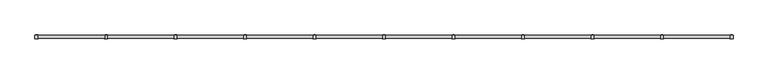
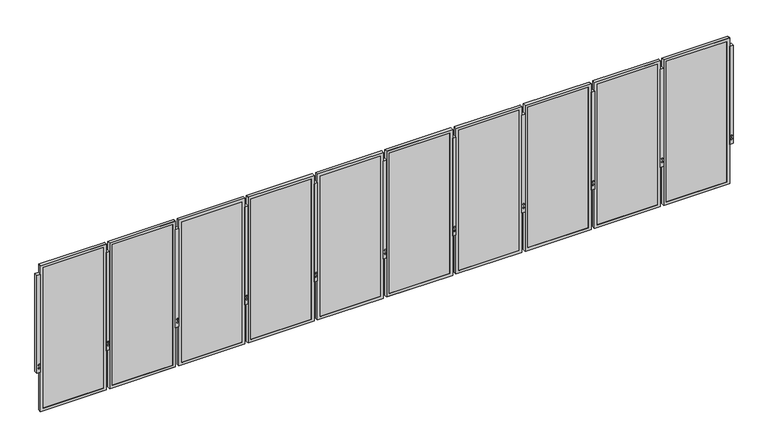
"""IFC4 building model written with IfcOpenShell, lengths in millimetres: railing geometry, Railing - Amico Architectural - Expanded Mesh Railing - Venetian."""

from ifc_helpers import new_model, si_unit, frame, origin, place, context, project, spatial, polyline, outline, extrude, faceted_brep, source, transform, mapped, element, save


def railing_fd5b3ce3(model_context):
    return source(origin(), model_context, "Body", "SolidModel", [
        extrude(outline(polyline([(-18831.9973337, -34280.3025624), (-18781.1973337, -34280.3025624), (-18781.1973337, -34331.1025624), (-18831.9973337, -34331.1025624), (-18831.9973337, -34280.3025624)])), frame((0.0, 0.0, -609.6), z_axis=(0.0, 0.0, 1.0), x_axis=(1.0, 0.0, 0.0)), (0.0, 0.0, 1.0), 1524.0),
        extrude(outline(polyline([(-530.1129981, -18817.0179039), (-542.3802561, -18813.730902), (-545.667258, -18801.463644), (-536.6870019, -18792.4833879), (-524.4197439, -18795.7703898), (-521.132742, -18808.0376478), (-530.1129981, -18817.0179039)])), frame((0.0, -34332.9492502, 0.0), z_axis=(0.0, 1.0, 0.0), x_axis=(0.0, 0.0, 1.0)), (0.0, 0.0, 1.0), 54.4933756),
        extrude(outline(polyline([(-479.3129981, -18817.0179039), (-491.5802561, -18813.730902), (-494.867258, -18801.463644), (-485.8870019, -18792.4833879), (-473.6197439, -18795.7703898), (-470.332742, -18808.0376478), (-479.3129981, -18817.0179039)])), frame((0.0, -34332.9492502, 0.0), z_axis=(0.0, 1.0, 0.0), x_axis=(0.0, 0.0, 1.0)), (0.0, 0.0, 1.0), 54.4933756),
        faceted_brep([(-19798.4017871, -34327.4957624, -1222.375), (-18830.0267871, -34327.4957624, -1222.375), (-18830.0267871, -34327.4957624, 1044.575), (-19798.4017871, -34327.4957624, 1044.575), (-19757.1267871, -34327.4957624, 1003.3), (-18871.3017871, -34327.4957624, 1003.3), (-18871.3017871, -34327.4957624, -1181.1), (-19757.1267871, -34327.4957624, -1181.1), (-19757.1267871, -34324.7525624, 1003.3), (-19757.1267871, -34324.7525624, -1181.1), (-19798.4017871, -34283.6224658, 1044.575), (-19798.4017871, -34283.6224658, -1222.375), (-19795.2267871, -34283.6224658, 1041.4), (-19795.2267871, -34324.7525624, 1041.4), (-19795.2267871, -34324.7525624, -1219.2), (-19795.2267871, -34283.6224658, -1219.2), (-18871.3017871, -34324.7525624, -1181.1), (-18830.0267871, -34283.6224658, -1222.375), (-18833.2017871, -34324.7525624, -1219.2), (-18833.2017871, -34283.6224658, -1219.2), (-18871.3017871, -34324.7525624, 1003.3), (-18830.0267871, -34283.6224658, 1044.575), (-18833.2017871, -34324.7525624, 1041.4), (-18833.2017871, -34283.6224658, 1041.4)], [[[0, 1, 2, 3], [4, 5, 6, 7]], [[8, 4, 7, 9]], [[3, 10, 11, 0]], [[12, 13, 14, 15]], [[9, 7, 6, 16]], [[0, 11, 17, 1]], [[15, 14, 18, 19]], [[16, 6, 5, 20]], [[1, 17, 21, 2]], [[19, 18, 22, 23]], [[20, 5, 4, 8]], [[10, 21, 17, 11], [15, 19, 23, 12]], [[2, 21, 10, 3]], [[13, 22, 18, 14], [9, 16, 20, 8]], [[23, 22, 13, 12]]]),
        extrude(outline(polyline([(-19795.2267871, -34315.2275624), (-18833.2017871, -34315.2275624), (-18833.2017871, -34324.7525624), (-19795.2267871, -34324.7525624), (-19795.2267871, -34315.2275624)])), frame((0.0, 0.0, -1219.2), z_axis=(0.0, 0.0, 1.0), x_axis=(1.0, 0.0, 0.0)), (0.0, 0.0, 1.0), 2260.6),
        extrude(outline(polyline([(-19849.5848337, -34280.3025624), (-19798.7848337, -34280.3025624), (-19798.7848337, -34331.1025624), (-19849.5848337, -34331.1025624), (-19849.5848337, -34280.3025624)])), frame((0.0, 0.0, -609.6), z_axis=(0.0, 0.0, 1.0), x_axis=(1.0, 0.0, 0.0)), (0.0, 0.0, 1.0), 1524.0),
        extrude(outline(polyline([(-530.1129981, -19834.6054039), (-542.3802561, -19831.318402), (-545.667258, -19819.051144), (-536.6870019, -19810.0708879), (-524.4197439, -19813.3578898), (-521.132742, -19825.6251478), (-530.1129981, -19834.6054039)])), frame((0.0, -34332.9492502, 0.0), z_axis=(0.0, 1.0, 0.0), x_axis=(0.0, 0.0, 1.0)), (0.0, 0.0, 1.0), 54.4933756),
        extrude(outline(polyline([(-479.3129981, -19834.6054039), (-491.5802561, -19831.318402), (-494.867258, -19819.051144), (-485.8870019, -19810.0708879), (-473.6197439, -19813.3578898), (-470.332742, -19825.6251478), (-479.3129981, -19834.6054039)])), frame((0.0, -34332.9492502, 0.0), z_axis=(0.0, 1.0, 0.0), x_axis=(0.0, 0.0, 1.0)), (0.0, 0.0, 1.0), 54.4933756),
        faceted_brep([(-20815.9892871, -34327.4957624, -1222.375), (-19847.6142871, -34327.4957624, -1222.375), (-19847.6142871, -34327.4957624, 1044.575), (-20815.9892871, -34327.4957624, 1044.575), (-20774.7142871, -34327.4957624, 1003.3), (-19888.8892871, -34327.4957624, 1003.3), (-19888.8892871, -34327.4957624, -1181.1), (-20774.7142871, -34327.4957624, -1181.1), (-20774.7142871, -34324.7525624, 1003.3), (-20774.7142871, -34324.7525624, -1181.1), (-20815.9892871, -34283.6224658, 1044.575), (-20815.9892871, -34283.6224658, -1222.375), (-20812.8142871, -34283.6224658, 1041.4), (-20812.8142871, -34324.7525624, 1041.4), (-20812.8142871, -34324.7525624, -1219.2), (-20812.8142871, -34283.6224658, -1219.2), (-19888.8892871, -34324.7525624, -1181.1), (-19847.6142871, -34283.6224658, -1222.375), (-19850.7892871, -34324.7525624, -1219.2), (-19850.7892871, -34283.6224658, -1219.2), (-19888.8892871, -34324.7525624, 1003.3), (-19847.6142871, -34283.6224658, 1044.575), (-19850.7892871, -34324.7525624, 1041.4), (-19850.7892871, -34283.6224658, 1041.4)], [[[0, 1, 2, 3], [4, 5, 6, 7]], [[8, 4, 7, 9]], [[3, 10, 11, 0]], [[12, 13, 14, 15]], [[9, 7, 6, 16]], [[0, 11, 17, 1]], [[15, 14, 18, 19]], [[16, 6, 5, 20]], [[1, 17, 21, 2]], [[19, 18, 22, 23]], [[20, 5, 4, 8]], [[10, 21, 17, 11], [15, 19, 23, 12]], [[2, 21, 10, 3]], [[13, 22, 18, 14], [9, 16, 20, 8]], [[23, 22, 13, 12]]]),
        extrude(outline(polyline([(-20812.8142871, -34315.2275624), (-19850.7892871, -34315.2275624), (-19850.7892871, -34324.7525624), (-20812.8142871, -34324.7525624), (-20812.8142871, -34315.2275624)])), frame((0.0, 0.0, -1219.2), z_axis=(0.0, 0.0, 1.0), x_axis=(1.0, 0.0, 0.0)), (0.0, 0.0, 1.0), 2260.6),
        extrude(outline(polyline([(-20867.1723337, -34280.3025624), (-20816.3723337, -34280.3025624), (-20816.3723337, -34331.1025624), (-20867.1723337, -34331.1025624), (-20867.1723337, -34280.3025624)])), frame((0.0, 0.0, -609.6), z_axis=(0.0, 0.0, 1.0), x_axis=(1.0, 0.0, 0.0)), (0.0, 0.0, 1.0), 1524.0),
        extrude(outline(polyline([(-530.1129981, -20852.1929039), (-542.3802561, -20848.905902), (-545.667258, -20836.638644), (-536.6870019, -20827.6583879), (-524.4197439, -20830.9453898), (-521.132742, -20843.2126478), (-530.1129981, -20852.1929039)])), frame((0.0, -34332.9492502, 0.0), z_axis=(0.0, 1.0, 0.0), x_axis=(0.0, 0.0, 1.0)), (0.0, 0.0, 1.0), 54.4933756),
        extrude(outline(polyline([(-479.3129981, -20852.1929039), (-491.5802561, -20848.905902), (-494.867258, -20836.638644), (-485.8870019, -20827.6583879), (-473.6197439, -20830.9453898), (-470.332742, -20843.2126478), (-479.3129981, -20852.1929039)])), frame((0.0, -34332.9492502, 0.0), z_axis=(0.0, 1.0, 0.0), x_axis=(0.0, 0.0, 1.0)), (0.0, 0.0, 1.0), 54.4933756),
        faceted_brep([(-21833.5767871, -34327.4957624, -1222.375), (-20865.2017871, -34327.4957624, -1222.375), (-20865.2017871, -34327.4957624, 1044.575), (-21833.5767871, -34327.4957624, 1044.575), (-21792.3017871, -34327.4957624, 1003.3), (-20906.4767871, -34327.4957624, 1003.3), (-20906.4767871, -34327.4957624, -1181.1), (-21792.3017871, -34327.4957624, -1181.1), (-21792.3017871, -34324.7525624, 1003.3), (-21792.3017871, -34324.7525624, -1181.1), (-21833.5767871, -34283.6224658, 1044.575), (-21833.5767871, -34283.6224658, -1222.375), (-21830.4017871, -34283.6224658, 1041.4), (-21830.4017871, -34324.7525624, 1041.4), (-21830.4017871, -34324.7525624, -1219.2), (-21830.4017871, -34283.6224658, -1219.2), (-20906.4767871, -34324.7525624, -1181.1), (-20865.2017871, -34283.6224658, -1222.375), (-20868.3767871, -34324.7525624, -1219.2), (-20868.3767871, -34283.6224658, -1219.2), (-20906.4767871, -34324.7525624, 1003.3), (-20865.2017871, -34283.6224658, 1044.575), (-20868.3767871, -34324.7525624, 1041.4), (-20868.3767871, -34283.6224658, 1041.4)], [[[0, 1, 2, 3], [4, 5, 6, 7]], [[8, 4, 7, 9]], [[3, 10, 11, 0]], [[12, 13, 14, 15]], [[9, 7, 6, 16]], [[0, 11, 17, 1]], [[15, 14, 18, 19]], [[16, 6, 5, 20]], [[1, 17, 21, 2]], [[19, 18, 22, 23]], [[20, 5, 4, 8]], [[10, 21, 17, 11], [15, 19, 23, 12]], [[2, 21, 10, 3]], [[13, 22, 18, 14], [9, 16, 20, 8]], [[23, 22, 13, 12]]]),
        extrude(outline(polyline([(-21830.4017871, -34315.2275624), (-20868.3767871, -34315.2275624), (-20868.3767871, -34324.7525624), (-21830.4017871, -34324.7525624), (-21830.4017871, -34315.2275624)])), frame((0.0, 0.0, -1219.2), z_axis=(0.0, 0.0, 1.0), x_axis=(1.0, 0.0, 0.0)), (0.0, 0.0, 1.0), 2260.6),
        extrude(outline(polyline([(-21884.7598337, -34280.3025624), (-21833.9598337, -34280.3025624), (-21833.9598337, -34331.1025624), (-21884.7598337, -34331.1025624), (-21884.7598337, -34280.3025624)])), frame((0.0, 0.0, -609.6), z_axis=(0.0, 0.0, 1.0), x_axis=(1.0, 0.0, 0.0)), (0.0, 0.0, 1.0), 1524.0),
        extrude(outline(polyline([(-530.1129981, -21869.7804039), (-542.3802561, -21866.493402), (-545.667258, -21854.226144), (-536.6870019, -21845.2458879), (-524.4197439, -21848.5328898), (-521.132742, -21860.8001478), (-530.1129981, -21869.7804039)])), frame((0.0, -34332.9492502, 0.0), z_axis=(0.0, 1.0, 0.0), x_axis=(0.0, 0.0, 1.0)), (0.0, 0.0, 1.0), 54.4933756),
        extrude(outline(polyline([(-479.3129981, -21869.7804039), (-491.5802561, -21866.493402), (-494.867258, -21854.226144), (-485.8870019, -21845.2458879), (-473.6197439, -21848.5328898), (-470.332742, -21860.8001478), (-479.3129981, -21869.7804039)])), frame((0.0, -34332.9492502, 0.0), z_axis=(0.0, 1.0, 0.0), x_axis=(0.0, 0.0, 1.0)), (0.0, 0.0, 1.0), 54.4933756),
        faceted_brep([(-22851.1642871, -34327.4957624, -1222.375), (-21882.7892871, -34327.4957624, -1222.375), (-21882.7892871, -34327.4957624, 1044.575), (-22851.1642871, -34327.4957624, 1044.575), (-22809.8892871, -34327.4957624, 1003.3), (-21924.0642871, -34327.4957624, 1003.3), (-21924.0642871, -34327.4957624, -1181.1), (-22809.8892871, -34327.4957624, -1181.1), (-22809.8892871, -34324.7525624, 1003.3), (-22809.8892871, -34324.7525624, -1181.1), (-22851.1642871, -34283.6224658, 1044.575), (-22851.1642871, -34283.6224658, -1222.375), (-22847.9892871, -34283.6224658, 1041.4), (-22847.9892871, -34324.7525624, 1041.4), (-22847.9892871, -34324.7525624, -1219.2), (-22847.9892871, -34283.6224658, -1219.2), (-21924.0642871, -34324.7525624, -1181.1), (-21882.7892871, -34283.6224658, -1222.375), (-21885.9642871, -34324.7525624, -1219.2), (-21885.9642871, -34283.6224658, -1219.2), (-21924.0642871, -34324.7525624, 1003.3), (-21882.7892871, -34283.6224658, 1044.575), (-21885.9642871, -34324.7525624, 1041.4), (-21885.9642871, -34283.6224658, 1041.4)], [[[0, 1, 2, 3], [4, 5, 6, 7]], [[8, 4, 7, 9]], [[3, 10, 11, 0]], [[12, 13, 14, 15]], [[9, 7, 6, 16]], [[0, 11, 17, 1]], [[15, 14, 18, 19]], [[16, 6, 5, 20]], [[1, 17, 21, 2]], [[19, 18, 22, 23]], [[20, 5, 4, 8]], [[10, 21, 17, 11], [15, 19, 23, 12]], [[2, 21, 10, 3]], [[13, 22, 18, 14], [9, 16, 20, 8]], [[23, 22, 13, 12]]]),
        extrude(outline(polyline([(-22847.9892871, -34315.2275624), (-21885.9642871, -34315.2275624), (-21885.9642871, -34324.7525624), (-22847.9892871, -34324.7525624), (-22847.9892871, -34315.2275624)])), frame((0.0, 0.0, -1219.2), z_axis=(0.0, 0.0, 1.0), x_axis=(1.0, 0.0, 0.0)), (0.0, 0.0, 1.0), 2260.6),
        extrude(outline(polyline([(-22902.3473337, -34280.3025624), (-22851.5473337, -34280.3025624), (-22851.5473337, -34331.1025624), (-22902.3473337, -34331.1025624), (-22902.3473337, -34280.3025624)])), frame((0.0, 0.0, -609.6), z_axis=(0.0, 0.0, 1.0), x_axis=(1.0, 0.0, 0.0)), (0.0, 0.0, 1.0), 1524.0),
        extrude(outline(polyline([(-530.1129981, -22887.3679039), (-542.3802561, -22884.080902), (-545.667258, -22871.813644), (-536.6870019, -22862.8333879), (-524.4197439, -22866.1203898), (-521.132742, -22878.3876478), (-530.1129981, -22887.3679039)])), frame((0.0, -34332.9492502, 0.0), z_axis=(0.0, 1.0, 0.0), x_axis=(0.0, 0.0, 1.0)), (0.0, 0.0, 1.0), 54.4933756),
        extrude(outline(polyline([(-479.3129981, -22887.3679039), (-491.5802561, -22884.080902), (-494.867258, -22871.813644), (-485.8870019, -22862.8333879), (-473.6197439, -22866.1203898), (-470.332742, -22878.3876478), (-479.3129981, -22887.3679039)])), frame((0.0, -34332.9492502, 0.0), z_axis=(0.0, 1.0, 0.0), x_axis=(0.0, 0.0, 1.0)), (0.0, 0.0, 1.0), 54.4933756),
        faceted_brep([(-23868.7517871, -34327.4957624, -1222.375), (-22900.3767871, -34327.4957624, -1222.375), (-22900.3767871, -34327.4957624, 1044.575), (-23868.7517871, -34327.4957624, 1044.575), (-23827.4767871, -34327.4957624, 1003.3), (-22941.6517871, -34327.4957624, 1003.3), (-22941.6517871, -34327.4957624, -1181.1), (-23827.4767871, -34327.4957624, -1181.1), (-23827.4767871, -34324.7525624, 1003.3), (-23827.4767871, -34324.7525624, -1181.1), (-23868.7517871, -34283.6224658, 1044.575), (-23868.7517871, -34283.6224658, -1222.375), (-23865.5767871, -34283.6224658, 1041.4), (-23865.5767871, -34324.7525624, 1041.4), (-23865.5767871, -34324.7525624, -1219.2), (-23865.5767871, -34283.6224658, -1219.2), (-22941.6517871, -34324.7525624, -1181.1), (-22900.3767871, -34283.6224658, -1222.375), (-22903.5517871, -34324.7525624, -1219.2), (-22903.5517871, -34283.6224658, -1219.2), (-22941.6517871, -34324.7525624, 1003.3), (-22900.3767871, -34283.6224658, 1044.575), (-22903.5517871, -34324.7525624, 1041.4), (-22903.5517871, -34283.6224658, 1041.4)], [[[0, 1, 2, 3], [4, 5, 6, 7]], [[8, 4, 7, 9]], [[3, 10, 11, 0]], [[12, 13, 14, 15]], [[9, 7, 6, 16]], [[0, 11, 17, 1]], [[15, 14, 18, 19]], [[16, 6, 5, 20]], [[1, 17, 21, 2]], [[19, 18, 22, 23]], [[20, 5, 4, 8]], [[10, 21, 17, 11], [15, 19, 23, 12]], [[2, 21, 10, 3]], [[13, 22, 18, 14], [9, 16, 20, 8]], [[23, 22, 13, 12]]]),
        extrude(outline(polyline([(-23865.5767871, -34315.2275624), (-22903.5517871, -34315.2275624), (-22903.5517871, -34324.7525624), (-23865.5767871, -34324.7525624), (-23865.5767871, -34315.2275624)])), frame((0.0, 0.0, -1219.2), z_axis=(0.0, 0.0, 1.0), x_axis=(1.0, 0.0, 0.0)), (0.0, 0.0, 1.0), 2260.6),
        extrude(outline(polyline([(-23919.9348337, -34280.3025624), (-23869.1348337, -34280.3025624), (-23869.1348337, -34331.1025624), (-23919.9348337, -34331.1025624), (-23919.9348337, -34280.3025624)])), frame((0.0, 0.0, -609.6), z_axis=(0.0, 0.0, 1.0), x_axis=(1.0, 0.0, 0.0)), (0.0, 0.0, 1.0), 1524.0),
        extrude(outline(polyline([(-530.1129981, -23904.9554039), (-542.3802561, -23901.668402), (-545.667258, -23889.401144), (-536.6870019, -23880.4208879), (-524.4197439, -23883.7078898), (-521.132742, -23895.9751478), (-530.1129981, -23904.9554039)])), frame((0.0, -34332.9492502, 0.0), z_axis=(0.0, 1.0, 0.0), x_axis=(0.0, 0.0, 1.0)), (0.0, 0.0, 1.0), 54.4933756),
        extrude(outline(polyline([(-479.3129981, -23904.9554039), (-491.5802561, -23901.668402), (-494.867258, -23889.401144), (-485.8870019, -23880.4208879), (-473.6197439, -23883.7078898), (-470.332742, -23895.9751478), (-479.3129981, -23904.9554039)])), frame((0.0, -34332.9492502, 0.0), z_axis=(0.0, 1.0, 0.0), x_axis=(0.0, 0.0, 1.0)), (0.0, 0.0, 1.0), 54.4933756),
        faceted_brep([(-24886.3392871, -34327.4957624, -1222.375), (-23917.9642871, -34327.4957624, -1222.375), (-23917.9642871, -34327.4957624, 1044.575), (-24886.3392871, -34327.4957624, 1044.575), (-24845.0642871, -34327.4957624, 1003.3), (-23959.2392871, -34327.4957624, 1003.3), (-23959.2392871, -34327.4957624, -1181.1), (-24845.0642871, -34327.4957624, -1181.1), (-24845.0642871, -34324.7525624, 1003.3), (-24845.0642871, -34324.7525624, -1181.1), (-24886.3392871, -34283.6224658, 1044.575), (-24886.3392871, -34283.6224658, -1222.375), (-24883.1642871, -34283.6224658, 1041.4), (-24883.1642871, -34324.7525624, 1041.4), (-24883.1642871, -34324.7525624, -1219.2), (-24883.1642871, -34283.6224658, -1219.2), (-23959.2392871, -34324.7525624, -1181.1), (-23917.9642871, -34283.6224658, -1222.375), (-23921.1392871, -34324.7525624, -1219.2), (-23921.1392871, -34283.6224658, -1219.2), (-23959.2392871, -34324.7525624, 1003.3), (-23917.9642871, -34283.6224658, 1044.575), (-23921.1392871, -34324.7525624, 1041.4), (-23921.1392871, -34283.6224658, 1041.4)], [[[0, 1, 2, 3], [4, 5, 6, 7]], [[8, 4, 7, 9]], [[3, 10, 11, 0]], [[12, 13, 14, 15]], [[9, 7, 6, 16]], [[0, 11, 17, 1]], [[15, 14, 18, 19]], [[16, 6, 5, 20]], [[1, 17, 21, 2]], [[19, 18, 22, 23]], [[20, 5, 4, 8]], [[10, 21, 17, 11], [15, 19, 23, 12]], [[2, 21, 10, 3]], [[13, 22, 18, 14], [9, 16, 20, 8]], [[23, 22, 13, 12]]]),
        extrude(outline(polyline([(-24883.1642871, -34315.2275624), (-23921.1392871, -34315.2275624), (-23921.1392871, -34324.7525624), (-24883.1642871, -34324.7525624), (-24883.1642871, -34315.2275624)])), frame((0.0, 0.0, -1219.2), z_axis=(0.0, 0.0, 1.0), x_axis=(1.0, 0.0, 0.0)), (0.0, 0.0, 1.0), 2260.6),
        extrude(outline(polyline([(-24937.5223337, -34280.3025624), (-24886.7223337, -34280.3025624), (-24886.7223337, -34331.1025624), (-24937.5223337, -34331.1025624), (-24937.5223337, -34280.3025624)])), frame((0.0, 0.0, -609.6), z_axis=(0.0, 0.0, 1.0), x_axis=(1.0, 0.0, 0.0)), (0.0, 0.0, 1.0), 1524.0),
        extrude(outline(polyline([(-530.1129981, -24922.5429039), (-542.3802561, -24919.255902), (-545.667258, -24906.988644), (-536.6870019, -24898.0083879), (-524.4197439, -24901.2953898), (-521.132742, -24913.5626478), (-530.1129981, -24922.5429039)])), frame((0.0, -34332.9492502, 0.0), z_axis=(0.0, 1.0, 0.0), x_axis=(0.0, 0.0, 1.0)), (0.0, 0.0, 1.0), 54.4933756),
        extrude(outline(polyline([(-479.3129981, -24922.5429039), (-491.5802561, -24919.255902), (-494.867258, -24906.988644), (-485.8870019, -24898.0083879), (-473.6197439, -24901.2953898), (-470.332742, -24913.5626478), (-479.3129981, -24922.5429039)])), frame((0.0, -34332.9492502, 0.0), z_axis=(0.0, 1.0, 0.0), x_axis=(0.0, 0.0, 1.0)), (0.0, 0.0, 1.0), 54.4933756),
        faceted_brep([(-25903.9267871, -34327.4957624, -1222.375), (-24935.5517871, -34327.4957624, -1222.375), (-24935.5517871, -34327.4957624, 1044.575), (-25903.9267871, -34327.4957624, 1044.575), (-25862.6517871, -34327.4957624, 1003.3), (-24976.8267871, -34327.4957624, 1003.3), (-24976.8267871, -34327.4957624, -1181.1), (-25862.6517871, -34327.4957624, -1181.1), (-25862.6517871, -34324.7525624, 1003.3), (-25862.6517871, -34324.7525624, -1181.1), (-25903.9267871, -34283.6224658, 1044.575), (-25903.9267871, -34283.6224658, -1222.375), (-25900.7517871, -34283.6224658, 1041.4), (-25900.7517871, -34324.7525624, 1041.4), (-25900.7517871, -34324.7525624, -1219.2), (-25900.7517871, -34283.6224658, -1219.2), (-24976.8267871, -34324.7525624, -1181.1), (-24935.5517871, -34283.6224658, -1222.375), (-24938.7267871, -34324.7525624, -1219.2), (-24938.7267871, -34283.6224658, -1219.2), (-24976.8267871, -34324.7525624, 1003.3), (-24935.5517871, -34283.6224658, 1044.575), (-24938.7267871, -34324.7525624, 1041.4), (-24938.7267871, -34283.6224658, 1041.4)], [[[0, 1, 2, 3], [4, 5, 6, 7]], [[8, 4, 7, 9]], [[3, 10, 11, 0]], [[12, 13, 14, 15]], [[9, 7, 6, 16]], [[0, 11, 17, 1]], [[15, 14, 18, 19]], [[16, 6, 5, 20]], [[1, 17, 21, 2]], [[19, 18, 22, 23]], [[20, 5, 4, 8]], [[10, 21, 17, 11], [15, 19, 23, 12]], [[2, 21, 10, 3]], [[13, 22, 18, 14], [9, 16, 20, 8]], [[23, 22, 13, 12]]]),
        extrude(outline(polyline([(-25900.7517871, -34315.2275624), (-24938.7267871, -34315.2275624), (-24938.7267871, -34324.7525624), (-25900.7517871, -34324.7525624), (-25900.7517871, -34315.2275624)])), frame((0.0, 0.0, -1219.2), z_axis=(0.0, 0.0, 1.0), x_axis=(1.0, 0.0, 0.0)), (0.0, 0.0, 1.0), 2260.6),
        extrude(outline(polyline([(-25955.1098337, -34280.3025624), (-25904.3098337, -34280.3025624), (-25904.3098337, -34331.1025624), (-25955.1098337, -34331.1025624), (-25955.1098337, -34280.3025624)])), frame((0.0, 0.0, -609.6), z_axis=(0.0, 0.0, 1.0), x_axis=(1.0, 0.0, 0.0)), (0.0, 0.0, 1.0), 1524.0),
        extrude(outline(polyline([(-530.1129981, -25940.1304039), (-542.3802561, -25936.843402), (-545.667258, -25924.576144), (-536.6870019, -25915.5958879), (-524.4197439, -25918.8828898), (-521.132742, -25931.1501478), (-530.1129981, -25940.1304039)])), frame((0.0, -34332.9492502, 0.0), z_axis=(0.0, 1.0, 0.0), x_axis=(0.0, 0.0, 1.0)), (0.0, 0.0, 1.0), 54.4933756),
        extrude(outline(polyline([(-479.3129981, -25940.1304039), (-491.5802561, -25936.843402), (-494.867258, -25924.576144), (-485.8870019, -25915.5958879), (-473.6197439, -25918.8828898), (-470.332742, -25931.1501478), (-479.3129981, -25940.1304039)])), frame((0.0, -34332.9492502, 0.0), z_axis=(0.0, 1.0, 0.0), x_axis=(0.0, 0.0, 1.0)), (0.0, 0.0, 1.0), 54.4933756),
        faceted_brep([(-26921.5142871, -34327.4957624, -1222.375), (-25953.1392871, -34327.4957624, -1222.375), (-25953.1392871, -34327.4957624, 1044.575), (-26921.5142871, -34327.4957624, 1044.575), (-26880.2392871, -34327.4957624, 1003.3), (-25994.4142871, -34327.4957624, 1003.3), (-25994.4142871, -34327.4957624, -1181.1), (-26880.2392871, -34327.4957624, -1181.1), (-26880.2392871, -34324.7525624, 1003.3), (-26880.2392871, -34324.7525624, -1181.1), (-26921.5142871, -34283.6224658, 1044.575), (-26921.5142871, -34283.6224658, -1222.375), (-26918.3392871, -34283.6224658, 1041.4), (-26918.3392871, -34324.7525624, 1041.4), (-26918.3392871, -34324.7525624, -1219.2), (-26918.3392871, -34283.6224658, -1219.2), (-25994.4142871, -34324.7525624, -1181.1), (-25953.1392871, -34283.6224658, -1222.375), (-25956.3142871, -34324.7525624, -1219.2), (-25956.3142871, -34283.6224658, -1219.2), (-25994.4142871, -34324.7525624, 1003.3), (-25953.1392871, -34283.6224658, 1044.575), (-25956.3142871, -34324.7525624, 1041.4), (-25956.3142871, -34283.6224658, 1041.4)], [[[0, 1, 2, 3], [4, 5, 6, 7]], [[8, 4, 7, 9]], [[3, 10, 11, 0]], [[12, 13, 14, 15]], [[9, 7, 6, 16]], [[0, 11, 17, 1]], [[15, 14, 18, 19]], [[16, 6, 5, 20]], [[1, 17, 21, 2]], [[19, 18, 22, 23]], [[20, 5, 4, 8]], [[10, 21, 17, 11], [15, 19, 23, 12]], [[2, 21, 10, 3]], [[13, 22, 18, 14], [9, 16, 20, 8]], [[23, 22, 13, 12]]]),
        extrude(outline(polyline([(-26918.3392871, -34315.2275624), (-25956.3142871, -34315.2275624), (-25956.3142871, -34324.7525624), (-26918.3392871, -34324.7525624), (-26918.3392871, -34315.2275624)])), frame((0.0, 0.0, -1219.2), z_axis=(0.0, 0.0, 1.0), x_axis=(1.0, 0.0, 0.0)), (0.0, 0.0, 1.0), 2260.6),
        extrude(outline(polyline([(-26972.6973337, -34280.3025624), (-26921.8973337, -34280.3025624), (-26921.8973337, -34331.1025624), (-26972.6973337, -34331.1025624), (-26972.6973337, -34280.3025624)])), frame((0.0, 0.0, -609.6), z_axis=(0.0, 0.0, 1.0), x_axis=(1.0, 0.0, 0.0)), (0.0, 0.0, 1.0), 1524.0),
        extrude(outline(polyline([(-530.1129981, -26957.7179039), (-542.3802561, -26954.430902), (-545.667258, -26942.163644), (-536.6870019, -26933.1833879), (-524.4197439, -26936.4703898), (-521.132742, -26948.7376478), (-530.1129981, -26957.7179039)])), frame((0.0, -34332.9492502, 0.0), z_axis=(0.0, 1.0, 0.0), x_axis=(0.0, 0.0, 1.0)), (0.0, 0.0, 1.0), 54.4933756),
        extrude(outline(polyline([(-479.3129981, -26957.7179039), (-491.5802561, -26954.430902), (-494.867258, -26942.163644), (-485.8870019, -26933.1833879), (-473.6197439, -26936.4703898), (-470.332742, -26948.7376478), (-479.3129981, -26957.7179039)])), frame((0.0, -34332.9492502, 0.0), z_axis=(0.0, 1.0, 0.0), x_axis=(0.0, 0.0, 1.0)), (0.0, 0.0, 1.0), 54.4933756),
        faceted_brep([(-27939.1017871, -34327.4957624, -1222.375), (-26970.7267871, -34327.4957624, -1222.375), (-26970.7267871, -34327.4957624, 1044.575), (-27939.1017871, -34327.4957624, 1044.575), (-27897.8267871, -34327.4957624, 1003.3), (-27012.0017871, -34327.4957624, 1003.3), (-27012.0017871, -34327.4957624, -1181.1), (-27897.8267871, -34327.4957624, -1181.1), (-27897.8267871, -34324.7525624, 1003.3), (-27897.8267871, -34324.7525624, -1181.1), (-27939.1017871, -34283.6224658, 1044.575), (-27939.1017871, -34283.6224658, -1222.375), (-27935.9267871, -34283.6224658, 1041.4), (-27935.9267871, -34324.7525624, 1041.4), (-27935.9267871, -34324.7525624, -1219.2), (-27935.9267871, -34283.6224658, -1219.2), (-27012.0017871, -34324.7525624, -1181.1), (-26970.7267871, -34283.6224658, -1222.375), (-26973.9017871, -34324.7525624, -1219.2), (-26973.9017871, -34283.6224658, -1219.2), (-27012.0017871, -34324.7525624, 1003.3), (-26970.7267871, -34283.6224658, 1044.575), (-26973.9017871, -34324.7525624, 1041.4), (-26973.9017871, -34283.6224658, 1041.4)], [[[0, 1, 2, 3], [4, 5, 6, 7]], [[8, 4, 7, 9]], [[3, 10, 11, 0]], [[12, 13, 14, 15]], [[9, 7, 6, 16]], [[0, 11, 17, 1]], [[15, 14, 18, 19]], [[16, 6, 5, 20]], [[1, 17, 21, 2]], [[19, 18, 22, 23]], [[20, 5, 4, 8]], [[10, 21, 17, 11], [15, 19, 23, 12]], [[2, 21, 10, 3]], [[13, 22, 18, 14], [9, 16, 20, 8]], [[23, 22, 13, 12]]]),
        extrude(outline(polyline([(-27935.9267871, -34315.2275624), (-26973.9017871, -34315.2275624), (-26973.9017871, -34324.7525624), (-27935.9267871, -34324.7525624), (-27935.9267871, -34315.2275624)])), frame((0.0, 0.0, -1219.2), z_axis=(0.0, 0.0, 1.0), x_axis=(1.0, 0.0, 0.0)), (0.0, 0.0, 1.0), 2260.6),
        extrude(outline(polyline([(-27990.2848337, -34280.3025624), (-27939.4848337, -34280.3025624), (-27939.4848337, -34331.1025624), (-27990.2848337, -34331.1025624), (-27990.2848337, -34280.3025624)])), frame((0.0, 0.0, -609.6), z_axis=(0.0, 0.0, 1.0), x_axis=(1.0, 0.0, 0.0)), (0.0, 0.0, 1.0), 1524.0),
        extrude(outline(polyline([(-530.1129981, -27975.3054039), (-542.3802561, -27972.018402), (-545.667258, -27959.751144), (-536.6870019, -27950.7708879), (-524.4197439, -27954.0578898), (-521.132742, -27966.3251478), (-530.1129981, -27975.3054039)])), frame((0.0, -34332.9492502, 0.0), z_axis=(0.0, 1.0, 0.0), x_axis=(0.0, 0.0, 1.0)), (0.0, 0.0, 1.0), 54.4933756),
        extrude(outline(polyline([(-479.3129981, -27975.3054039), (-491.5802561, -27972.018402), (-494.867258, -27959.751144), (-485.8870019, -27950.7708879), (-473.6197439, -27954.0578898), (-470.332742, -27966.3251478), (-479.3129981, -27975.3054039)])), frame((0.0, -34332.9492502, 0.0), z_axis=(0.0, 1.0, 0.0), x_axis=(0.0, 0.0, 1.0)), (0.0, 0.0, 1.0), 54.4933756),
        faceted_brep([(-28956.6892871, -34327.4957624, -1222.375), (-27988.3142871, -34327.4957624, -1222.375), (-27988.3142871, -34327.4957624, 1044.575), (-28956.6892871, -34327.4957624, 1044.575), (-28915.4142871, -34327.4957624, 1003.3), (-28029.5892871, -34327.4957624, 1003.3), (-28029.5892871, -34327.4957624, -1181.1), (-28915.4142871, -34327.4957624, -1181.1), (-28915.4142871, -34324.7525624, 1003.3), (-28915.4142871, -34324.7525624, -1181.1), (-28956.6892871, -34283.6224658, 1044.575), (-28956.6892871, -34283.6224658, -1222.375), (-28953.5142871, -34283.6224658, 1041.4), (-28953.5142871, -34324.7525624, 1041.4), (-28953.5142871, -34324.7525624, -1219.2), (-28953.5142871, -34283.6224658, -1219.2), (-28029.5892871, -34324.7525624, -1181.1), (-27988.3142871, -34283.6224658, -1222.375), (-27991.4892871, -34324.7525624, -1219.2), (-27991.4892871, -34283.6224658, -1219.2), (-28029.5892871, -34324.7525624, 1003.3), (-27988.3142871, -34283.6224658, 1044.575), (-27991.4892871, -34324.7525624, 1041.4), (-27991.4892871, -34283.6224658, 1041.4)], [[[0, 1, 2, 3], [4, 5, 6, 7]], [[8, 4, 7, 9]], [[3, 10, 11, 0]], [[12, 13, 14, 15]], [[9, 7, 6, 16]], [[0, 11, 17, 1]], [[15, 14, 18, 19]], [[16, 6, 5, 20]], [[1, 17, 21, 2]], [[19, 18, 22, 23]], [[20, 5, 4, 8]], [[10, 21, 17, 11], [15, 19, 23, 12]], [[2, 21, 10, 3]], [[13, 22, 18, 14], [9, 16, 20, 8]], [[23, 22, 13, 12]]]),
        extrude(outline(polyline([(-28953.5142871, -34315.2275624), (-27991.4892871, -34315.2275624), (-27991.4892871, -34324.7525624), (-28953.5142871, -34324.7525624), (-28953.5142871, -34315.2275624)])), frame((0.0, 0.0, -1219.2), z_axis=(0.0, 0.0, 1.0), x_axis=(1.0, 0.0, 0.0)), (0.0, 0.0, 1.0), 2260.6),
        extrude(outline(polyline([(-29007.8723337, -34280.3025624), (-28957.0723337, -34280.3025624), (-28957.0723337, -34331.1025624), (-29007.8723337, -34331.1025624), (-29007.8723337, -34280.3025624)])), frame((0.0, 0.0, -609.6), z_axis=(0.0, 0.0, 1.0), x_axis=(1.0, 0.0, 0.0)), (0.0, 0.0, 1.0), 1524.0),
        extrude(outline(polyline([(-530.1129981, -28992.8929039), (-542.3802561, -28989.605902), (-545.667258, -28977.338644), (-536.6870019, -28968.3583879), (-524.4197439, -28971.6453898), (-521.132742, -28983.9126478), (-530.1129981, -28992.8929039)])), frame((0.0, -34332.9492502, 0.0), z_axis=(0.0, 1.0, 0.0), x_axis=(0.0, 0.0, 1.0)), (0.0, 0.0, 1.0), 54.4933756),
        extrude(outline(polyline([(-479.3129981, -28992.8929039), (-491.5802561, -28989.605902), (-494.867258, -28977.338644), (-485.8870019, -28968.3583879), (-473.6197439, -28971.6453898), (-470.332742, -28983.9126478), (-479.3129981, -28992.8929039)])), frame((0.0, -34332.9492502, 0.0), z_axis=(0.0, 1.0, 0.0), x_axis=(0.0, 0.0, 1.0)), (0.0, 0.0, 1.0), 54.4933756),
    ])


if __name__ == "__main__":
    model = new_model("IFC4")
    model_context = context("Model", 3, world=origin())
    ifc_project = project(units=[si_unit("LENGTHUNIT", "METRE", prefix="MILLI")], contexts=[model_context])
    site = spatial("IfcSite", under=ifc_project)
    building = spatial("IfcBuilding", under=site)
    placement = place(None, origin())
    railing_shape = railing_fd5b3ce3(model_context)
    element("IfcRailing", 1, ObjectType="Railing - Amico Architectural - Expanded Mesh Railing - Venetian", at=placement, inside=building, context=model_context, shape_type="MappedRepresentation", body=[
        mapped(railing_shape, transform((0.0, 0.0, 0.0), x_axis=(1.0, 0.0, 0.0), y_axis=(0.0, 1.0, 0.0), z_axis=(0.0, 0.0, 1.0))),
    ])
    save(model, "model.ifc")
